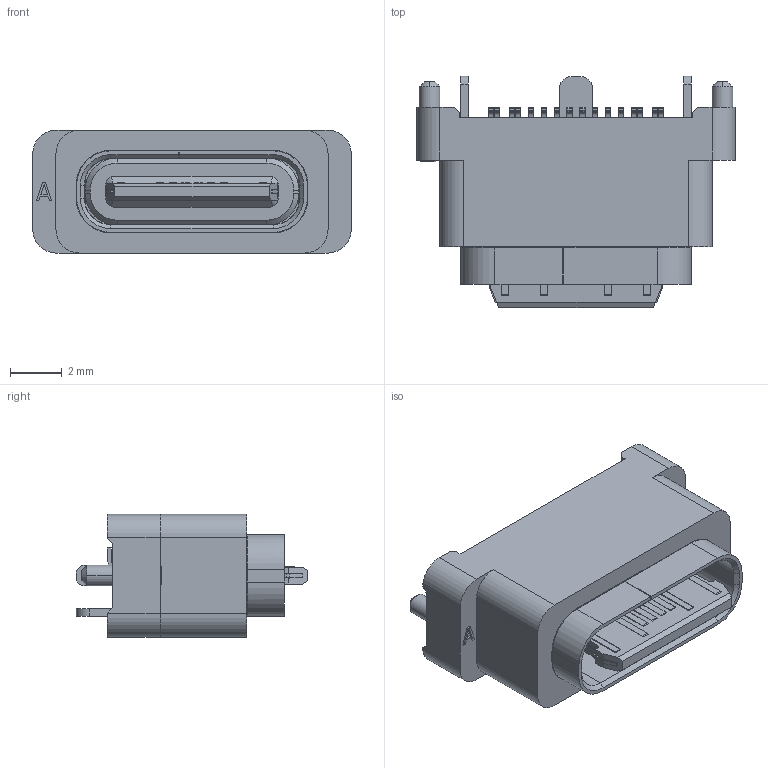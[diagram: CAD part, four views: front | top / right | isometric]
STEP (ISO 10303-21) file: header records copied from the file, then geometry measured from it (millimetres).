
FILE_DESCRIPTION (( 'STEP AP203' ), '1' );
FILE_NAME ('U5338-16PNW6.85LF.STEP', '2026-09-07T02:52:42', ( '' ), ( '' ), 'SwSTEP 2.0', 'SolidWorks 2024', '' );
FILE_SCHEMA (( 'CONFIG_CONTROL_DESIGN' ));
Length unit declared in the file: millimetre
Products named in the file (1): U5338-16PNW6.85LF
Bounding box: 12.34 x 8.96 x 4.79 mm (x, y, z)
Volume: 250.6 mm3; surface area: 691.5 mm2
Topology: 1 solids, 3 shells, 728 faces, 2035 edges, 1338 vertices
Faces by surface type: plane 531, cylinder 144, cone 28, bspline 25
Entity records: 24772 total; most frequent: CARTESIAN_POINT 5909, ORIENTED_EDGE 4070, DIRECTION 3669, EDGE_CURVE 2035, LINE 1629, VECTOR 1629, VERTEX_POINT 1338, AXIS2_PLACEMENT_3D 1020
